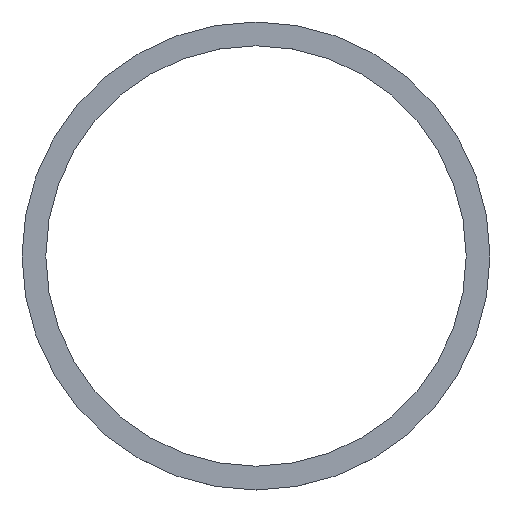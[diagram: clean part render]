
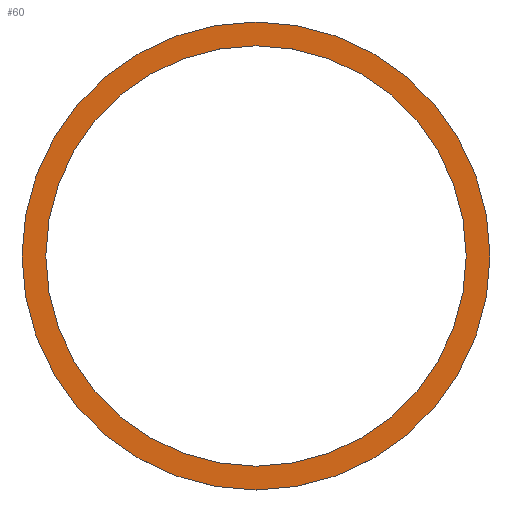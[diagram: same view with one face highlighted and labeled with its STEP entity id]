
A CAD part, top view. The second image highlights one B-rep face of the part: STEP entity #60.
In plain terms, the highlighted planar face has unit normal (0, 0, 1).
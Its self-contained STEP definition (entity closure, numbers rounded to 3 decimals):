
#54=FACE_BOUND('',#72,.F.);
#56=PLANE('',#154);
#60=ADVANCED_FACE('',(#54,#66),#56,.T.);
#66=FACE_OUTER_BOUND('',#73,.F.);
#72=EDGE_LOOP('',(#86,#87));
#73=EDGE_LOOP('',(#88,#89));
#86=ORIENTED_EDGE('',*,*,#122,.T.);
#87=ORIENTED_EDGE('',*,*,#114,.T.);
#88=ORIENTED_EDGE('',*,*,#125,.F.);
#89=ORIENTED_EDGE('',*,*,#117,.F.);
#114=EDGE_CURVE('',#141,#140,#126,.T.);
#117=EDGE_CURVE('',#135,#134,#129,.T.);
#122=EDGE_CURVE('',#140,#141,#130,.T.);
#125=EDGE_CURVE('',#134,#135,#133,.T.);
#126=CIRCLE('',#144,26.5);
#129=CIRCLE('',#147,29.5);
#130=CIRCLE('',#148,26.5);
#133=CIRCLE('',#151,29.5);
#134=VERTEX_POINT('',#196);
#135=VERTEX_POINT('',#197);
#140=VERTEX_POINT('',#202);
#141=VERTEX_POINT('',#203);
#144=AXIS2_PLACEMENT_3D('',#204,#161,#162);
#147=AXIS2_PLACEMENT_3D('',#207,#167,#168);
#148=AXIS2_PLACEMENT_3D('',#212,#173,#174);
#151=AXIS2_PLACEMENT_3D('',#215,#179,#180);
#154=AXIS2_PLACEMENT_3D('',#218,#185,#186);
#161=DIRECTION('',(0.,0.,1.));
#162=DIRECTION('',(0.,-1.,0.));
#167=DIRECTION('',(0.,0.,1.));
#168=DIRECTION('',(0.,-1.,0.));
#173=DIRECTION('',(0.,0.,1.));
#174=DIRECTION('',(0.,1.,0.));
#179=DIRECTION('',(0.,0.,1.));
#180=DIRECTION('',(0.,1.,0.));
#185=DIRECTION('',(0.,0.,1.));
#186=DIRECTION('',(-1.,0.,0.));
#196=CARTESIAN_POINT('',(197.042,65.13,-189.7));
#197=CARTESIAN_POINT('',(197.042,6.13,-189.7));
#202=CARTESIAN_POINT('',(197.042,62.13,-189.7));
#203=CARTESIAN_POINT('',(197.042,9.13,-189.7));
#204=CARTESIAN_POINT('',(197.042,35.63,-189.7));
#207=CARTESIAN_POINT('',(197.042,35.63,-189.7));
#212=CARTESIAN_POINT('',(197.042,35.63,-189.7));
#215=CARTESIAN_POINT('',(197.042,35.63,-189.7));
#218=CARTESIAN_POINT('',(227.132,65.72,-189.7));
